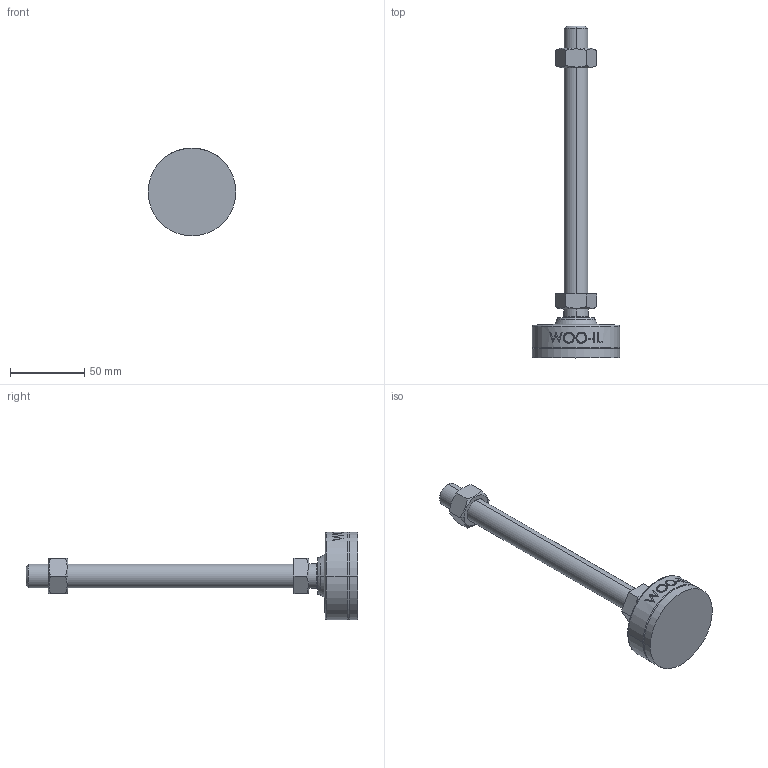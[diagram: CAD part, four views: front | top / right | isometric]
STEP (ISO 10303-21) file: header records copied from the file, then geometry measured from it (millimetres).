
FILE_DESCRIPTION (( 'STEP AP214' ), '1' );
FILE_NAME ('MFNR59-M16-180.step', '2021-02-22T09:06:58', ( '' ), ( '' ), 'SwSTEP 2.0', 'SolidWorks 2019', '' );
FILE_SCHEMA (( 'AUTOMOTIVE_DESIGN' ));
Length unit declared in the file: millimetre
Products named in the file (2): MFNR59-M16-180
Bounding box: 59 x 223 x 59 mm (x, y, z)
Volume: 109497.2 mm3; surface area: 22884.9 mm2
Topology: 2 solids, 2 shells, 105 faces, 245 edges, 156 vertices
Faces by surface type: plane 47, cone 18, cylinder 18, bspline 16, torus 4, sphere 2
Entity records: 4515 total; most frequent: CARTESIAN_POINT 2178, ORIENTED_EDGE 490, DIRECTION 437, EDGE_CURVE 245, AXIS2_PLACEMENT_3D 167, VERTEX_POINT 156, EDGE_LOOP 119, FACE_OUTER_BOUND 105
